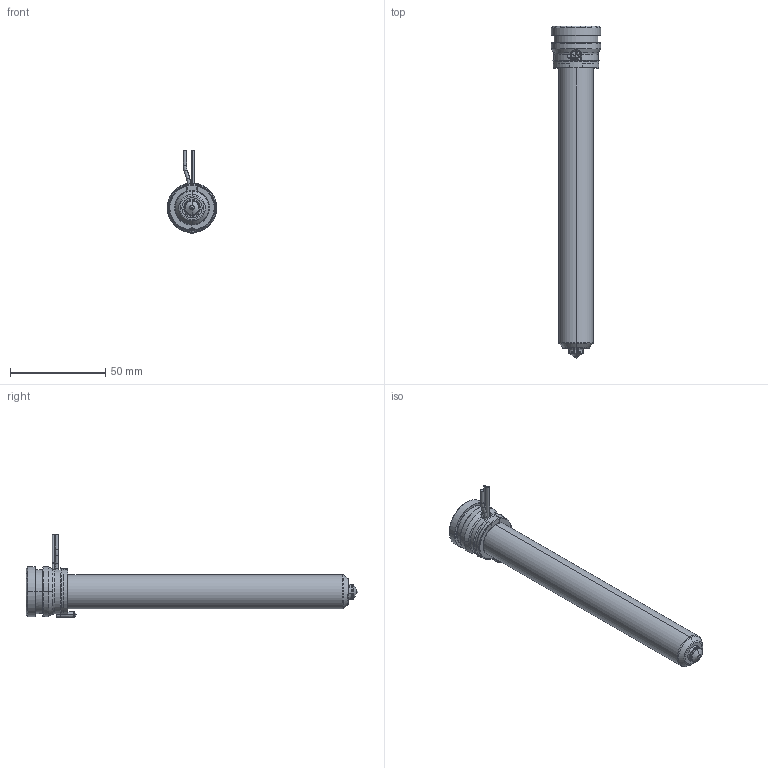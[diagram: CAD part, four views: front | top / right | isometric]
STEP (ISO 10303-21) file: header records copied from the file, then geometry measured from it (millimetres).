
FILE_DESCRIPTION((''),'2;1');
FILE_NAME('MPN-08-24-TS8-156-A','2026-02-05T11:53:24',('UPTIO'),('Thermoplay S.p.A.'),'CREO PARAMETRIC BY PTC INC, 2023494','CREO PARAMETRIC BY PTC INC, 2023494','');
FILE_SCHEMA(('CONFIG_CONTROL_DESIGN','SHAPE_APPEARANCE_LAYERS_GROUPS'));
Length unit declared in the file: millimetre
Products named in the file (1): MPN-08-24-TS8-156-A
Bounding box: 26 x 174 x 43.5 mm (x, y, z)
Volume: 32921.6 mm3; surface area: 42755.4 mm2
Topology: 2 solids, 5 shells, 548 faces, 1437 edges, 892 vertices
Faces by surface type: cylinder 178, plane 146, bspline 82, torus 64, cone 60, sphere 12, extrusion 6
Entity records: 29742 total; most frequent: CARTESIAN_POINT 13569, ORIENTED_EDGE 2854, DIRECTION 2539, EDGE_CURVE 1427, AXIS2_PLACEMENT_3D 992, VERTEX_POINT 892, EDGE_LOOP 575, VECTOR 555
